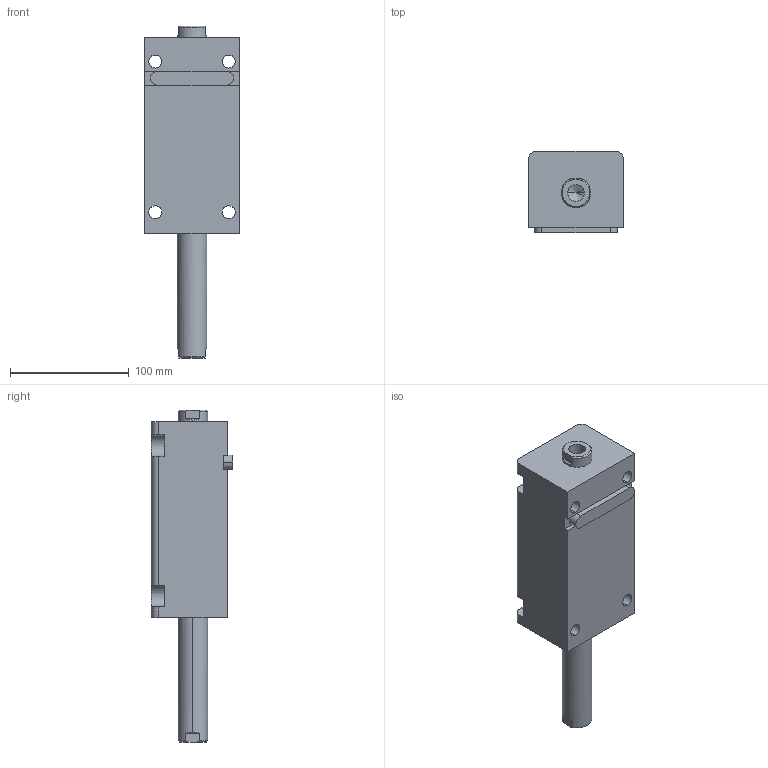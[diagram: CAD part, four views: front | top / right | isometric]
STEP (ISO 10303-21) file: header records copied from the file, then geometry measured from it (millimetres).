
FILE_DESCRIPTION (( 'STEP AP203' ), '1' );
FILE_NAME ('HTB-LW40-95N.STEP', '2019-10-09T07:59:31', ( '微软用户' ), ( '微软中国' ), 'SwSTEP 2.0', 'SolidWorks 2012', '' );
FILE_SCHEMA (( 'CONFIG_CONTROL_DESIGN' ));
Length unit declared in the file: millimetre
Products named in the file (4): HTB-LW40-95N; HTB-LA40-瑩; HTB-LW40-95N活塞杆; HTB-LW40-95掛极
Assembly tree (3 placements, depth 2):
  HTB-LW40-95N
    HTB-LW40-95掛极
    HTB-LW40-95N活塞杆
    HTB-LA40-瑩
Bounding box: 80 x 68.5 x 280 mm (x, y, z)
Volume: 786921.9 mm3; surface area: 114729.4 mm2
Topology: 3 solids, 3 shells, 105 faces, 261 edges, 168 vertices
Faces by surface type: plane 44, cylinder 41, cone 12, torus 8
Entity records: 3567 total; most frequent: CARTESIAN_POINT 588, DIRECTION 573, ORIENTED_EDGE 514, EDGE_CURVE 257, AXIS2_PLACEMENT_3D 221, VERTEX_POINT 168, LINE 131, VECTOR 131
